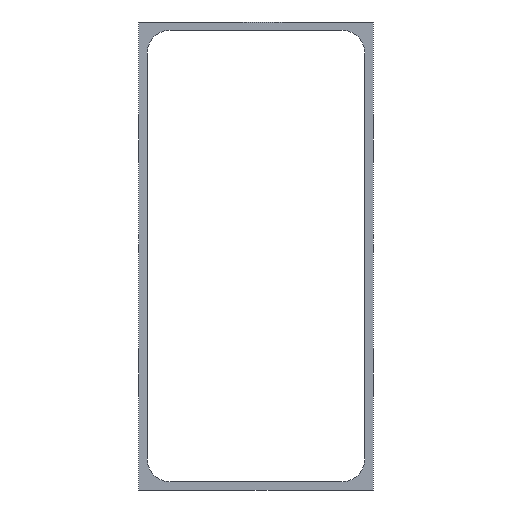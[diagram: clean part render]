
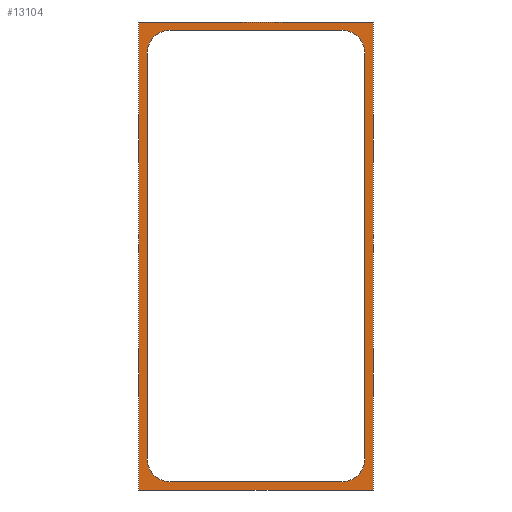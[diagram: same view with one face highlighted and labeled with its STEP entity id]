
A CAD part, front view. The second image highlights one B-rep face of the part: STEP entity #13104.
In plain terms, the highlighted planar face has unit normal (0, -1, 0).
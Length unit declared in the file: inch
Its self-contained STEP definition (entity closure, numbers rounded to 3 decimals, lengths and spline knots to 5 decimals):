
#1132=FACE_BOUND('',#3404,.T.);
#1142=PLANE('',#14814);
#1714=FACE_OUTER_BOUND('',#3403,.T.);
#3403=EDGE_LOOP('',(#11959,#11960,#11961,#11962));
#3404=EDGE_LOOP('',(#11963,#11964,#11965,#11966,#11967,#11968,#11969,#11970));
#3407=LINE('',#18807,#3993);
#3411=LINE('',#19005,#3997);
#3415=LINE('',#19389,#4001);
#3420=LINE('',#19587,#4006);
#3979=LINE('',#22195,#4565);
#3983=LINE('',#22203,#4569);
#3986=LINE('',#22209,#4572);
#3989=LINE('',#22214,#4575);
#3993=VECTOR('',#14827,0.3937);
#3997=VECTOR('',#15025,0.3937);
#4001=VECTOR('',#15409,0.3937);
#4006=VECTOR('',#15608,0.3937);
#4565=VECTOR('',#18773,0.3937);
#4569=VECTOR('',#18779,0.3937);
#4572=VECTOR('',#18784,0.3937);
#4575=VECTOR('',#18789,0.3937);
#4577=CIRCLE('',#13120,0.0975);
#4672=CIRCLE('',#13217,0.0975);
#4860=CIRCLE('',#13407,0.0975);
#4955=CIRCLE('',#13504,0.0975);
#5701=VERTEX_POINT('',#18797);
#5702=VERTEX_POINT('',#18798);
#5705=VERTEX_POINT('',#18806);
#5800=VERTEX_POINT('',#18998);
#5802=VERTEX_POINT('',#19004);
#5990=VERTEX_POINT('',#19382);
#5992=VERTEX_POINT('',#19388);
#6087=VERTEX_POINT('',#19580);
#6833=VERTEX_POINT('',#22193);
#6834=VERTEX_POINT('',#22194);
#6837=VERTEX_POINT('',#22202);
#6839=VERTEX_POINT('',#22208);
#6841=EDGE_CURVE('',#5701,#5702,#4577,.T.);
#6845=EDGE_CURVE('',#5702,#5705,#3407,.T.);
#6941=EDGE_CURVE('',#5705,#5800,#4672,.T.);
#6944=EDGE_CURVE('',#5800,#5802,#3411,.T.);
#7133=EDGE_CURVE('',#5802,#5990,#4860,.T.);
#7136=EDGE_CURVE('',#5990,#5992,#3415,.T.);
#7232=EDGE_CURVE('',#5992,#6087,#4955,.T.);
#7236=EDGE_CURVE('',#6087,#5701,#3420,.T.);
#8539=EDGE_CURVE('',#6833,#6834,#3979,.T.);
#8543=EDGE_CURVE('',#6837,#6833,#3983,.T.);
#8546=EDGE_CURVE('',#6839,#6837,#3986,.T.);
#8549=EDGE_CURVE('',#6834,#6839,#3989,.T.);
#11959=ORIENTED_EDGE('',*,*,#8549,.F.);
#11960=ORIENTED_EDGE('',*,*,#8539,.F.);
#11961=ORIENTED_EDGE('',*,*,#8543,.F.);
#11962=ORIENTED_EDGE('',*,*,#8546,.F.);
#11963=ORIENTED_EDGE('',*,*,#6841,.F.);
#11964=ORIENTED_EDGE('',*,*,#7236,.F.);
#11965=ORIENTED_EDGE('',*,*,#7232,.F.);
#11966=ORIENTED_EDGE('',*,*,#7136,.F.);
#11967=ORIENTED_EDGE('',*,*,#7133,.F.);
#11968=ORIENTED_EDGE('',*,*,#6944,.F.);
#11969=ORIENTED_EDGE('',*,*,#6941,.F.);
#11970=ORIENTED_EDGE('',*,*,#6845,.F.);
#13104=ADVANCED_FACE('',(#1714,#1132),#1142,.F.);
#13120=AXIS2_PLACEMENT_3D('',#18799,#14819,#14820);
#13217=AXIS2_PLACEMENT_3D('',#18999,#15018,#15019);
#13407=AXIS2_PLACEMENT_3D('',#19383,#15402,#15403);
#13504=AXIS2_PLACEMENT_3D('',#19581,#15600,#15601);
#14814=AXIS2_PLACEMENT_3D('',#22217,#18793,#18794);
#14819=DIRECTION('center_axis',(0.,-1.,0.));
#14820=DIRECTION('ref_axis',(-0.707,0.,-0.707));
#14827=DIRECTION('',(1.,0.,0.));
#15018=DIRECTION('center_axis',(0.,-1.,0.));
#15019=DIRECTION('ref_axis',(0.707,0.,-0.707));
#15025=DIRECTION('',(0.,0.,1.));
#15402=DIRECTION('center_axis',(0.,-1.,0.));
#15403=DIRECTION('ref_axis',(0.707,0.,0.707));
#15409=DIRECTION('',(-1.,0.,0.));
#15600=DIRECTION('center_axis',(0.,-1.,0.));
#15601=DIRECTION('ref_axis',(-0.707,0.,0.707));
#15608=DIRECTION('',(0.,0.,-1.));
#18773=DIRECTION('',(1.,0.,0.));
#18779=DIRECTION('',(0.,0.,1.));
#18784=DIRECTION('',(-1.,0.,0.));
#18789=DIRECTION('',(0.,0.,-1.));
#18793=DIRECTION('center_axis',(0.,1.,0.));
#18794=DIRECTION('ref_axis',(1.,0.,0.));
#18797=CARTESIAN_POINT('',(-0.465,0.,-0.8675));
#18798=CARTESIAN_POINT('',(-0.3675,0.,-0.965));
#18799=CARTESIAN_POINT('Origin',(-0.3675,0.,-0.8675));
#18806=CARTESIAN_POINT('',(0.3675,0.,-0.965));
#18807=CARTESIAN_POINT('',(0.465,0.,-0.965));
#18998=CARTESIAN_POINT('',(0.465,0.,-0.8675));
#18999=CARTESIAN_POINT('Origin',(0.3675,0.,-0.8675));
#19004=CARTESIAN_POINT('',(0.465,0.,0.8675));
#19005=CARTESIAN_POINT('',(0.465,0.,0.965));
#19382=CARTESIAN_POINT('',(0.3675,0.,0.965));
#19383=CARTESIAN_POINT('Origin',(0.3675,0.,0.8675));
#19388=CARTESIAN_POINT('',(-0.3675,0.,0.965));
#19389=CARTESIAN_POINT('',(-0.465,0.,0.965));
#19580=CARTESIAN_POINT('',(-0.465,0.,0.8675));
#19581=CARTESIAN_POINT('Origin',(-0.3675,0.,0.8675));
#19587=CARTESIAN_POINT('',(-0.465,0.,-0.965));
#22193=CARTESIAN_POINT('',(-0.5,0.,1.));
#22194=CARTESIAN_POINT('',(0.5,0.,1.));
#22195=CARTESIAN_POINT('',(-0.5,0.,1.));
#22202=CARTESIAN_POINT('',(-0.5,0.,-1.));
#22203=CARTESIAN_POINT('',(-0.5,0.,-1.));
#22208=CARTESIAN_POINT('',(0.5,0.,-1.));
#22209=CARTESIAN_POINT('',(0.5,0.,-1.));
#22214=CARTESIAN_POINT('',(0.5,0.,1.));
#22217=CARTESIAN_POINT('Origin',(0.,0.,0.));
